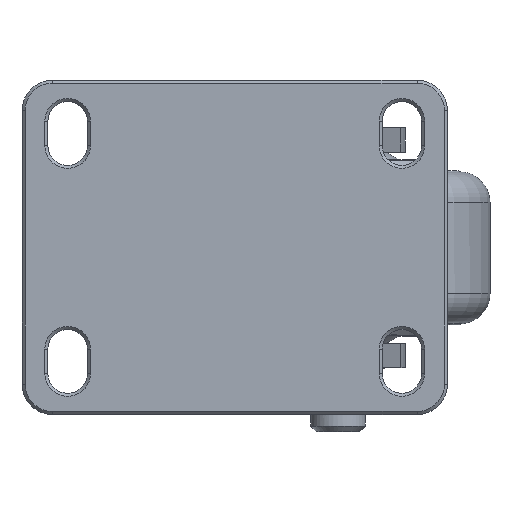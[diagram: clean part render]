
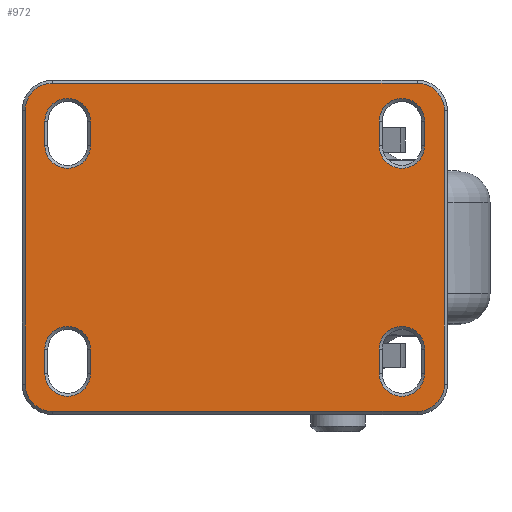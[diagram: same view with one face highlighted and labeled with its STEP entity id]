
A CAD part, top view. The second image highlights one B-rep face of the part: STEP entity #972.
In plain terms, the highlighted planar face has unit normal (0, 0, 1).
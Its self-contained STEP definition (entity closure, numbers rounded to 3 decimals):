
#972=ADVANCED_FACE('',(#1695,#1696,#1697,#1698,#1699),#1438,.T.);
#1438=PLANE('',#8360);
#1695=FACE_BOUND('',#1779,.T.);
#1696=FACE_BOUND('',#1780,.T.);
#1697=FACE_BOUND('',#1781,.T.);
#1698=FACE_BOUND('',#1782,.T.);
#1699=FACE_BOUND('',#1783,.T.);
#1779=EDGE_LOOP('',(#2982,#2983,#2984,#2985,#2986,#2987,#2988,#2989));
#1780=EDGE_LOOP('',(#2990,#2991,#2992,#2993));
#1781=EDGE_LOOP('',(#2994,#2995,#2996,#2997));
#1782=EDGE_LOOP('',(#2998,#2999,#3000,#3001));
#1783=EDGE_LOOP('',(#3002,#3003,#3004,#3005));
#2458=CIRCLE('',#8347,7.5);
#2459=CIRCLE('',#8349,9.);
#2460=CIRCLE('',#8350,9.);
#2461=CIRCLE('',#8351,9.);
#2462=CIRCLE('',#8352,9.);
#2463=CIRCLE('',#8353,7.5);
#2464=CIRCLE('',#8354,7.5);
#2465=CIRCLE('',#8355,7.5);
#2466=CIRCLE('',#8356,7.5);
#2467=CIRCLE('',#8357,7.5);
#2468=CIRCLE('',#8358,7.5);
#2469=CIRCLE('',#8359,7.5);
#2982=ORIENTED_EDGE('',*,*,#6234,.F.);
#2983=ORIENTED_EDGE('',*,*,#6235,.F.);
#2984=ORIENTED_EDGE('',*,*,#6236,.F.);
#2985=ORIENTED_EDGE('',*,*,#6237,.F.);
#2986=ORIENTED_EDGE('',*,*,#6238,.F.);
#2987=ORIENTED_EDGE('',*,*,#6239,.F.);
#2988=ORIENTED_EDGE('',*,*,#6240,.F.);
#2989=ORIENTED_EDGE('',*,*,#6241,.F.);
#2990=ORIENTED_EDGE('',*,*,#6242,.F.);
#2991=ORIENTED_EDGE('',*,*,#6243,.F.);
#2992=ORIENTED_EDGE('',*,*,#6244,.F.);
#2993=ORIENTED_EDGE('',*,*,#6245,.F.);
#2994=ORIENTED_EDGE('',*,*,#6246,.F.);
#2995=ORIENTED_EDGE('',*,*,#6247,.F.);
#2996=ORIENTED_EDGE('',*,*,#6248,.F.);
#2997=ORIENTED_EDGE('',*,*,#6249,.F.);
#2998=ORIENTED_EDGE('',*,*,#6250,.F.);
#2999=ORIENTED_EDGE('',*,*,#6251,.F.);
#3000=ORIENTED_EDGE('',*,*,#6233,.F.);
#3001=ORIENTED_EDGE('',*,*,#6252,.F.);
#3002=ORIENTED_EDGE('',*,*,#6253,.F.);
#3003=ORIENTED_EDGE('',*,*,#6254,.F.);
#3004=ORIENTED_EDGE('',*,*,#6255,.F.);
#3005=ORIENTED_EDGE('',*,*,#6256,.F.);
#5431=VERTEX_POINT('',#12609);
#5432=VERTEX_POINT('',#12611);
#5433=VERTEX_POINT('',#12615);
#5434=VERTEX_POINT('',#12616);
#5435=VERTEX_POINT('',#12618);
#5436=VERTEX_POINT('',#12620);
#5437=VERTEX_POINT('',#12622);
#5438=VERTEX_POINT('',#12624);
#5439=VERTEX_POINT('',#12626);
#5440=VERTEX_POINT('',#12628);
#5441=VERTEX_POINT('',#12631);
#5442=VERTEX_POINT('',#12632);
#5443=VERTEX_POINT('',#12634);
#5444=VERTEX_POINT('',#12636);
#5445=VERTEX_POINT('',#12639);
#5446=VERTEX_POINT('',#12640);
#5447=VERTEX_POINT('',#12642);
#5448=VERTEX_POINT('',#12644);
#5449=VERTEX_POINT('',#12647);
#5450=VERTEX_POINT('',#12648);
#5451=VERTEX_POINT('',#12652);
#5452=VERTEX_POINT('',#12653);
#5453=VERTEX_POINT('',#12655);
#5454=VERTEX_POINT('',#12657);
#6233=EDGE_CURVE('',#5432,#5431,#2458,.T.);
#6234=EDGE_CURVE('',#5433,#5434,#2459,.T.);
#6235=EDGE_CURVE('',#5435,#5433,#7283,.T.);
#6236=EDGE_CURVE('',#5436,#5435,#2460,.T.);
#6237=EDGE_CURVE('',#5437,#5436,#7284,.T.);
#6238=EDGE_CURVE('',#5438,#5437,#2461,.T.);
#6239=EDGE_CURVE('',#5439,#5438,#7285,.T.);
#6240=EDGE_CURVE('',#5440,#5439,#2462,.T.);
#6241=EDGE_CURVE('',#5434,#5440,#7286,.T.);
#6242=EDGE_CURVE('',#5441,#5442,#2463,.T.);
#6243=EDGE_CURVE('',#5443,#5441,#7287,.T.);
#6244=EDGE_CURVE('',#5444,#5443,#2464,.T.);
#6245=EDGE_CURVE('',#5442,#5444,#7288,.T.);
#6246=EDGE_CURVE('',#5445,#5446,#2465,.T.);
#6247=EDGE_CURVE('',#5447,#5445,#7289,.T.);
#6248=EDGE_CURVE('',#5448,#5447,#2466,.T.);
#6249=EDGE_CURVE('',#5446,#5448,#7290,.T.);
#6250=EDGE_CURVE('',#5449,#5450,#2467,.T.);
#6251=EDGE_CURVE('',#5431,#5449,#7291,.T.);
#6252=EDGE_CURVE('',#5450,#5432,#7292,.T.);
#6253=EDGE_CURVE('',#5451,#5452,#2468,.T.);
#6254=EDGE_CURVE('',#5453,#5451,#7293,.T.);
#6255=EDGE_CURVE('',#5454,#5453,#2469,.T.);
#6256=EDGE_CURVE('',#5452,#5454,#7294,.T.);
#7283=LINE('',#12617,#7764);
#7284=LINE('',#12621,#7765);
#7285=LINE('',#12625,#7766);
#7286=LINE('',#12629,#7767);
#7287=LINE('',#12633,#7768);
#7288=LINE('',#12637,#7769);
#7289=LINE('',#12641,#7770);
#7290=LINE('',#12645,#7771);
#7291=LINE('',#12649,#7772);
#7292=LINE('',#12650,#7773);
#7293=LINE('',#12654,#7774);
#7294=LINE('',#12658,#7775);
#7764=VECTOR('',#9580,1.);
#7765=VECTOR('',#9583,1.);
#7766=VECTOR('',#9586,1.);
#7767=VECTOR('',#9589,1.);
#7768=VECTOR('',#9592,1.);
#7769=VECTOR('',#9595,1.);
#7770=VECTOR('',#9598,1.);
#7771=VECTOR('',#9601,1.);
#7772=VECTOR('',#9604,1.);
#7773=VECTOR('',#9605,1.);
#7774=VECTOR('',#9608,1.);
#7775=VECTOR('',#9611,1.);
#8347=AXIS2_PLACEMENT_3D('',#12612,#9574,#9575);
#8349=AXIS2_PLACEMENT_3D('',#12614,#9578,#9579);
#8350=AXIS2_PLACEMENT_3D('',#12619,#9581,#9582);
#8351=AXIS2_PLACEMENT_3D('',#12623,#9584,#9585);
#8352=AXIS2_PLACEMENT_3D('',#12627,#9587,#9588);
#8353=AXIS2_PLACEMENT_3D('',#12630,#9590,#9591);
#8354=AXIS2_PLACEMENT_3D('',#12635,#9593,#9594);
#8355=AXIS2_PLACEMENT_3D('',#12638,#9596,#9597);
#8356=AXIS2_PLACEMENT_3D('',#12643,#9599,#9600);
#8357=AXIS2_PLACEMENT_3D('',#12646,#9602,#9603);
#8358=AXIS2_PLACEMENT_3D('',#12651,#9606,#9607);
#8359=AXIS2_PLACEMENT_3D('',#12656,#9609,#9610);
#8360=AXIS2_PLACEMENT_3D('',#12659,#9612,#9613);
#9574=DIRECTION('',(0.,0.,1.));
#9575=DIRECTION('',(1.,0.,0.));
#9578=DIRECTION('',(0.,0.,-1.));
#9579=DIRECTION('',(1.,0.,0.));
#9580=DIRECTION('',(0.,-1.,0.));
#9581=DIRECTION('',(0.,0.,-1.));
#9582=DIRECTION('',(0.,1.,0.));
#9583=DIRECTION('',(1.,0.,0.));
#9584=DIRECTION('',(0.,0.,-1.));
#9585=DIRECTION('',(-1.,0.,0.));
#9586=DIRECTION('',(0.,1.,0.));
#9587=DIRECTION('',(0.,0.,-1.));
#9588=DIRECTION('',(0.,-1.,0.));
#9589=DIRECTION('',(-1.,0.,0.));
#9590=DIRECTION('',(0.,0.,1.));
#9591=DIRECTION('',(-1.,0.,0.));
#9592=DIRECTION('',(0.,-1.,0.));
#9593=DIRECTION('',(0.,0.,1.));
#9594=DIRECTION('',(1.,0.,0.));
#9595=DIRECTION('',(0.,1.,0.));
#9596=DIRECTION('',(0.,0.,1.));
#9597=DIRECTION('',(-1.,0.,0.));
#9598=DIRECTION('',(0.,-1.,0.));
#9599=DIRECTION('',(0.,0.,1.));
#9600=DIRECTION('',(1.,0.,0.));
#9601=DIRECTION('',(0.,1.,0.));
#9602=DIRECTION('',(0.,0.,1.));
#9603=DIRECTION('',(-1.,0.,0.));
#9604=DIRECTION('',(0.,-1.,0.));
#9605=DIRECTION('',(0.,1.,0.));
#9606=DIRECTION('',(0.,0.,1.));
#9607=DIRECTION('',(-1.,0.,0.));
#9608=DIRECTION('',(0.,-1.,0.));
#9609=DIRECTION('',(0.,0.,1.));
#9610=DIRECTION('',(1.,0.,0.));
#9611=DIRECTION('',(0.,1.,0.));
#9612=DIRECTION('',(0.,0.,1.));
#9613=DIRECTION('',(-1.,0.,0.));
#12609=CARTESIAN_POINT('',(-62.5,-33.5,0.));
#12611=CARTESIAN_POINT('',(-47.5,-33.5,0.));
#12612=CARTESIAN_POINT('',(-55.,-33.5,0.));
#12614=CARTESIAN_POINT('',(60.,-45.,0.));
#12615=CARTESIAN_POINT('',(69.,-45.,0.));
#12616=CARTESIAN_POINT('',(60.,-54.,0.));
#12617=CARTESIAN_POINT('',(69.,45.,0.));
#12618=CARTESIAN_POINT('',(69.,45.,0.));
#12619=CARTESIAN_POINT('',(60.,45.,0.));
#12620=CARTESIAN_POINT('',(60.,54.,0.));
#12621=CARTESIAN_POINT('',(-60.,54.,0.));
#12622=CARTESIAN_POINT('',(-60.,54.,0.));
#12623=CARTESIAN_POINT('',(-60.,45.,0.));
#12624=CARTESIAN_POINT('',(-69.,45.,0.));
#12625=CARTESIAN_POINT('',(-69.,-45.,0.));
#12626=CARTESIAN_POINT('',(-69.,-45.,0.));
#12627=CARTESIAN_POINT('',(-60.,-45.,0.));
#12628=CARTESIAN_POINT('',(-60.,-54.,0.));
#12629=CARTESIAN_POINT('',(60.,-54.,0.));
#12630=CARTESIAN_POINT('',(55.,33.5,0.));
#12631=CARTESIAN_POINT('',(47.5,33.5,0.));
#12632=CARTESIAN_POINT('',(62.5,33.5,0.));
#12633=CARTESIAN_POINT('',(47.5,41.5,0.));
#12634=CARTESIAN_POINT('',(47.5,41.5,0.));
#12635=CARTESIAN_POINT('',(55.,41.5,0.));
#12636=CARTESIAN_POINT('',(62.5,41.5,0.));
#12637=CARTESIAN_POINT('',(62.5,33.5,0.));
#12638=CARTESIAN_POINT('',(-55.,33.5,0.));
#12639=CARTESIAN_POINT('',(-62.5,33.5,0.));
#12640=CARTESIAN_POINT('',(-47.5,33.5,0.));
#12641=CARTESIAN_POINT('',(-62.5,41.5,0.));
#12642=CARTESIAN_POINT('',(-62.5,41.5,0.));
#12643=CARTESIAN_POINT('',(-55.,41.5,0.));
#12644=CARTESIAN_POINT('',(-47.5,41.5,0.));
#12645=CARTESIAN_POINT('',(-47.5,33.5,0.));
#12646=CARTESIAN_POINT('',(-55.,-41.5,0.));
#12647=CARTESIAN_POINT('',(-62.5,-41.5,0.));
#12648=CARTESIAN_POINT('',(-47.5,-41.5,0.));
#12649=CARTESIAN_POINT('',(-62.5,-33.5,0.));
#12650=CARTESIAN_POINT('',(-47.5,-41.5,0.));
#12651=CARTESIAN_POINT('',(55.,-41.5,0.));
#12652=CARTESIAN_POINT('',(47.5,-41.5,0.));
#12653=CARTESIAN_POINT('',(62.5,-41.5,0.));
#12654=CARTESIAN_POINT('',(47.5,-33.5,0.));
#12655=CARTESIAN_POINT('',(47.5,-33.5,0.));
#12656=CARTESIAN_POINT('',(55.,-33.5,0.));
#12657=CARTESIAN_POINT('',(62.5,-33.5,0.));
#12658=CARTESIAN_POINT('',(62.5,-41.5,0.));
#12659=CARTESIAN_POINT('',(0.,0.,0.));
